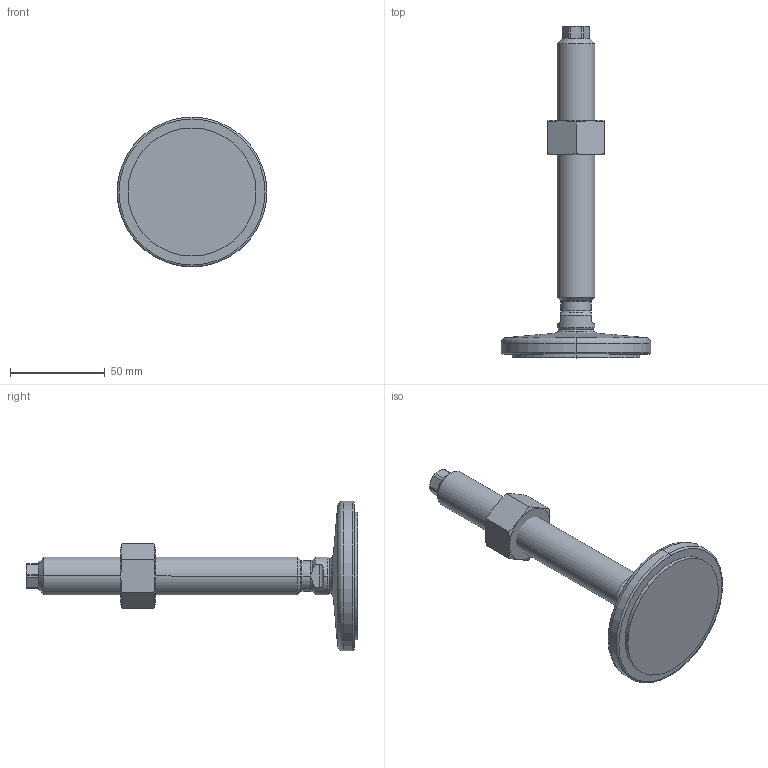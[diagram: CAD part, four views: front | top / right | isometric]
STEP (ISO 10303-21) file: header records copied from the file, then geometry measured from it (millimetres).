
FILE_DESCRIPTION (( 'STEP AP214' ), '1' );
FILE_NAME ('21-80-M20-150-D1-VK.step', '2020-10-02T17:36:33', ( '' ), ( '' ), 'SwSTEP 2.0', 'SolidWorks 2019', '' );
FILE_SCHEMA (( 'AUTOMOTIVE_DESIGN' ));
Length unit declared in the file: millimetre
Products named in the file (4): WB21_Spindel_V^WB21_V_M20-150; WB4032^WB21_V_M20; 21-80-M20-150-D1-VK; WB21_Fußteller 21^WB21_V_D1-080-R12-B9 (M20)
Assembly tree (3 placements, depth 2):
  21-80-M20-150-D1-VK
    WB21_Fußteller 21^WB21_V_D1-080-R12-B9 (M20)
    WB21_Spindel_V^WB21_V_M20-150
    WB4032^WB21_V_M20
Bounding box: 79 x 175.02 x 79 mm (x, y, z)
Volume: 112059.2 mm3; surface area: 26685.5 mm2
Topology: 3 solids, 3 shells, 98 faces, 219 edges, 129 vertices
Faces by surface type: cone 29, plane 28, cylinder 27, torus 10, sphere 4
Entity records: 3117 total; most frequent: CARTESIAN_POINT 724, DIRECTION 476, ORIENTED_EDGE 438, EDGE_CURVE 219, AXIS2_PLACEMENT_3D 205, VERTEX_POINT 129, EDGE_LOOP 102, CIRCLE 101
